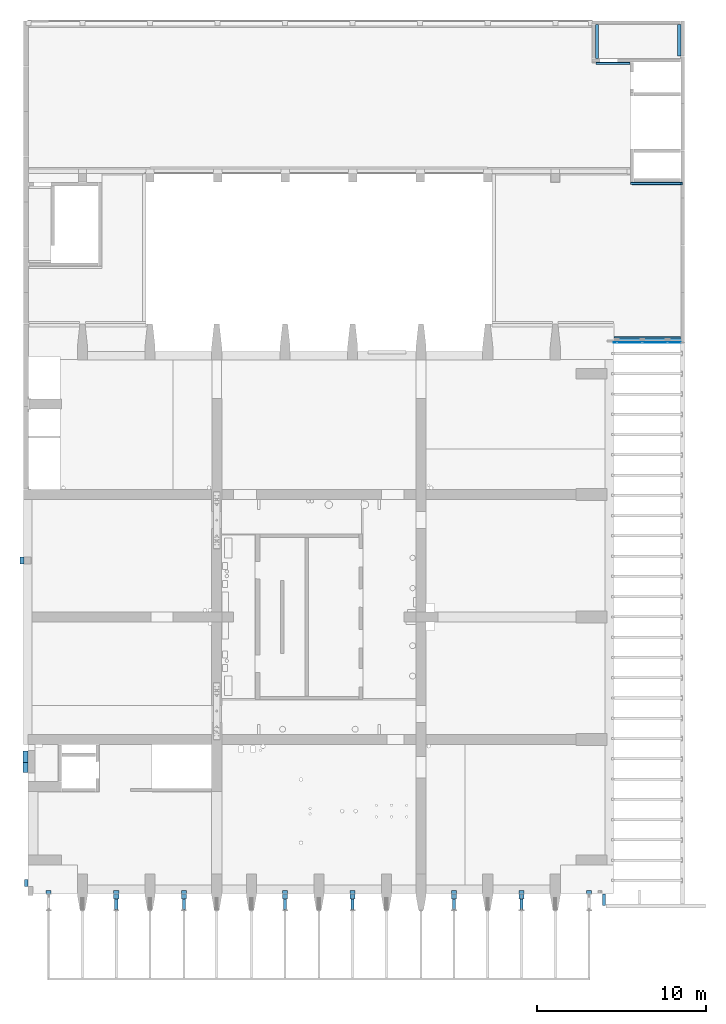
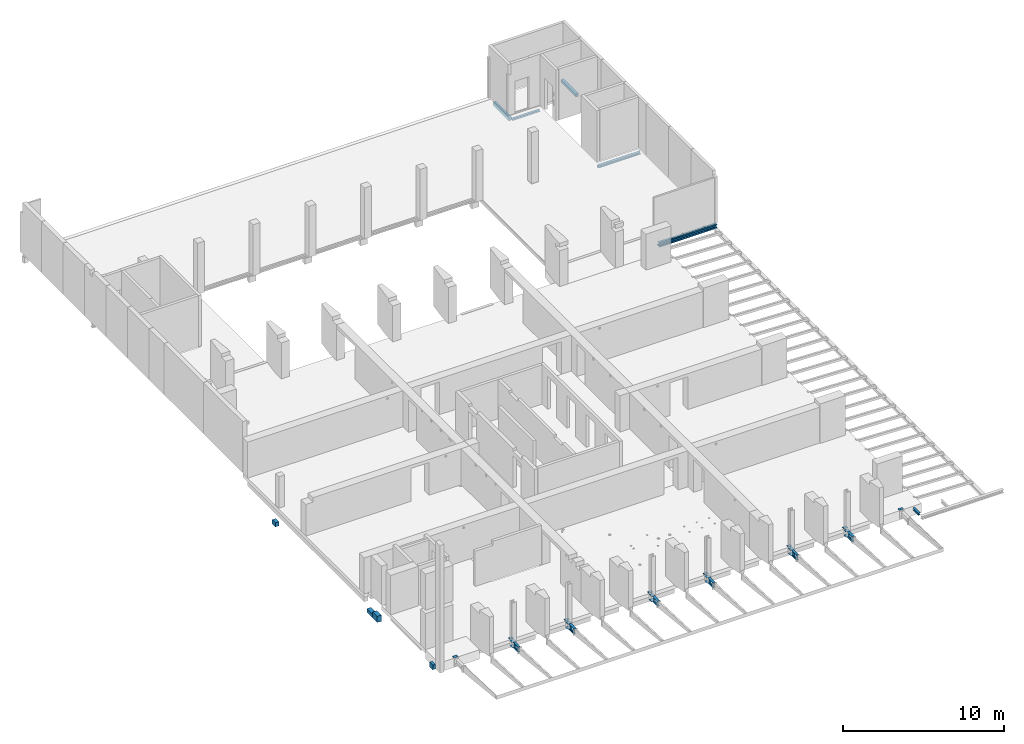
# One storey, part 13 of 27: 38 beams.
"""IFC2X3 building model written with IfcOpenShell, lengths in millimetres."""

from ifc_helpers import new_model, entity, si_unit, converted_unit, derived_unit, direction, frame, frame_2d, origin, origin_2d_with_axis, place, context, subcontext, project, spatial, polyline, circle_curve, parameter, trimmed, segment, composite_curve, rectangle, circle, i_section, outline, extrude, boolean, source, transform, mapped, material, type_object, type_shapes, element, save


model = new_model("IFC2X3")

# Units and contexts
model_context = context("Model", 3, precision=0.01, world=origin(), true_north=direction((6.12303176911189e-17, 1.0)))
body_context = subcontext(model_context, "Body", "Model", "MODEL_VIEW")
ifc_project = project(units=[si_unit("LENGTHUNIT", "METRE", prefix="MILLI"), si_unit("AREAUNIT", "SQUARE_METRE"), si_unit("VOLUMEUNIT", "CUBIC_METRE"), converted_unit("PLANEANGLEUNIT", "DEGREE", entity("IfcRatioMeasure", 0.0174532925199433), si_unit("PLANEANGLEUNIT", "RADIAN"), dimensions=[0, 0, 0, 0, 0, 0, 0]), si_unit("MASSUNIT", "GRAM", prefix="KILO"), derived_unit("MASSDENSITYUNIT", [(si_unit("MASSUNIT", "GRAM", prefix="KILO"), 1), (si_unit("LENGTHUNIT", "METRE"), -3)]), si_unit("TIMEUNIT", "SECOND"), si_unit("FREQUENCYUNIT", "HERTZ"), si_unit("THERMODYNAMICTEMPERATUREUNIT", "DEGREE_CELSIUS"), derived_unit("THERMALTRANSMITTANCEUNIT", [(si_unit("MASSUNIT", "GRAM", prefix="KILO"), 1), (si_unit("THERMODYNAMICTEMPERATUREUNIT", "KELVIN"), -1), (si_unit("TIMEUNIT", "SECOND"), -3)]), derived_unit("VOLUMETRICFLOWRATEUNIT", [(si_unit("LENGTHUNIT", "METRE"), 3), (si_unit("TIMEUNIT", "SECOND"), -1)]), si_unit("ELECTRICCURRENTUNIT", "AMPERE"), si_unit("ELECTRICVOLTAGEUNIT", "VOLT"), si_unit("POWERUNIT", "WATT"), si_unit("FORCEUNIT", "NEWTON", prefix="KILO"), si_unit("ILLUMINANCEUNIT", "LUX"), si_unit("LUMINOUSFLUXUNIT", "LUMEN"), si_unit("LUMINOUSINTENSITYUNIT", "CANDELA"), derived_unit("USERDEFINED", [(si_unit("MASSUNIT", "GRAM", prefix="KILO"), -1), (si_unit("LENGTHUNIT", "METRE"), -2), (si_unit("TIMEUNIT", "SECOND"), 3), (si_unit("LUMINOUSFLUXUNIT", "LUMEN"), 1)]), derived_unit("LINEARVELOCITYUNIT", [(si_unit("LENGTHUNIT", "METRE"), 1), (si_unit("TIMEUNIT", "SECOND"), -1)]), si_unit("PRESSUREUNIT", "PASCAL"), derived_unit("USERDEFINED", [(si_unit("LENGTHUNIT", "METRE"), -2), (si_unit("MASSUNIT", "GRAM", prefix="KILO"), 1), (si_unit("TIMEUNIT", "SECOND"), -2)])], contexts=[model_context])

# Site, building, storey
site_placement = place(None, origin())
site = spatial("IfcSite", under=ifc_project, at=site_placement, Name="Default", CompositionType="ELEMENT")
building_placement = place(site_placement, origin())
building = spatial("IfcBuilding", under=site, at=building_placement, Name="niet gebruiken", CompositionType="ELEMENT")
storey_placement = place(building_placement, frame((0.0, 0.0, 6000.0)))
storey = spatial("IfcBuildingStorey", under=building, at=storey_placement, Name="01 eerste verdieping", CompositionType="ELEMENT", Elevation=6000.0)

# Beams
ifc_material_1 = material(Name="NLRS_h2_staal")
beam_type_1 = type_object("IfcBeamType", Name="NLRS_28.11_SF_WPB_stalen ligger hoekprofiel gelijkzijdig_gen:ligger gelijzijdig hoekprofiel LEQU_150x150x15", PredefinedType="BEAM")
beam_1_placement = place(storey_placement, frame((163179.9, 43207.5, -360.0), z_axis=(0.0, 0.0, 1.0), x_axis=(-1.0, 0.0, 0.0)))
element("IfcBeam", 1, at=beam_1_placement, inside=storey, type_object=beam_type_1, material=ifc_material_1, Name="NLRS_28.11_SF_WPB_stalen ligger hoekprofiel gelijkzijdig_gen:ligger gelijzijdig hoekprofiel LEQU_150x150x15", ObjectType="NLRS_28.11_SF_WPB_stalen ligger hoekprofiel gelijkzijdig_gen:ligger gelijzijdig hoekprofiel LEQU_150x150x15", context=body_context, shape_type="SweptSolid", body=[
    extrude(outline(composite_curve([segment(polyline([(-93.3333333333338, -56.6666666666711), (56.6666666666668, -56.6666666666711)]), True, "CONTINUOUS"), segment(polyline([(56.6666666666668, -56.6666666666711), (56.6666666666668, 93.3333333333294)]), True, "CONTINUOUS"), segment(polyline([(56.6666666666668, 93.3333333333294), (49.6666666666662, 93.3333333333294)]), True, "CONTINUOUS"), segment(trimmed(circle_curve(frame_2d((49.6666666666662, 85.3333333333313), x_axis=(0.0, 1.0)), 7.99999999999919), [parameter(0.0)], [parameter(90.0000000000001)], True, "PARAMETER"), True, "CONTINUOUS"), segment(polyline([(41.6666666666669, 85.3333333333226), (41.6666666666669, -25.6666666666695)]), True, "CONTINUOUS"), segment(trimmed(circle_curve(frame_2d((25.6666666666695, -25.6666666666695), x_axis=(1.0, 0.0)), 15.9999999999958), [parameter(269.999999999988)], [parameter(0.0)], True, "PARAMETER"), False, "CONTINUOUS"), segment(polyline([(25.6666666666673, -41.6666666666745), (-85.3333333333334, -41.6666666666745)]), True, "CONTINUOUS"), segment(trimmed(circle_curve(frame_2d((-85.3333333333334, -49.6666666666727), x_axis=(0.0, 1.0)), 7.99999999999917), [parameter(0.0)], [parameter(90.0000000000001)], True, "PARAMETER"), True, "CONTINUOUS"), segment(polyline([(-93.3333333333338, -49.6666666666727), (-93.3333333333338, -56.6666666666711)]), True, "CONTINUOUS")], self_intersect=False)), frame((0.0, 14.1666666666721, -18.3333333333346), z_axis=(1.0, 0.0, 0.0), x_axis=(0.0, 0.0, -1.0)), (0.0, 0.0, 1.0), 2989.89999999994),
])
beam_2_placement = place(storey_placement, frame((160170.0, 50307.5, -360.0), z_axis=(0.0, 0.0, 1.0), x_axis=(-1.0, 0.0, 0.0)))
element("IfcBeam", 2, at=beam_2_placement, inside=storey, type_object=beam_type_1, material=ifc_material_1, Name="NLRS_28.11_SF_WPB_stalen ligger hoekprofiel gelijkzijdig_gen:ligger gelijzijdig hoekprofiel LEQU_150x150x15", ObjectType="NLRS_28.11_SF_WPB_stalen ligger hoekprofiel gelijkzijdig_gen:ligger gelijzijdig hoekprofiel LEQU_150x150x15", context=body_context, shape_type="SweptSolid", body=[
    extrude(outline(composite_curve([segment(polyline([(-93.3333333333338, -56.6666666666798), (56.6666666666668, -56.6666666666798)]), True, "CONTINUOUS"), segment(polyline([(56.6666666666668, -56.6666666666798), (56.6666666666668, 93.3333333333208)]), True, "CONTINUOUS"), segment(polyline([(56.6666666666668, 93.3333333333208), (49.6666666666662, 93.3333333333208)]), True, "CONTINUOUS"), segment(trimmed(circle_curve(frame_2d((49.6666666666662, 85.3333333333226), x_axis=(0.0, 1.0)), 7.99999999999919), [parameter(0.0)], [parameter(90.0000000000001)], True, "PARAMETER"), True, "CONTINUOUS"), segment(polyline([(41.6666666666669, 85.3333333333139), (41.6666666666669, -25.6666666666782)]), True, "CONTINUOUS"), segment(trimmed(circle_curve(frame_2d((25.6666666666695, -25.6666666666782), x_axis=(1.0, 0.0)), 15.9999999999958), [parameter(269.999999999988)], [parameter(0.0)], True, "PARAMETER"), False, "CONTINUOUS"), segment(polyline([(25.6666666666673, -41.6666666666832), (-85.3333333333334, -41.6666666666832)]), True, "CONTINUOUS"), segment(trimmed(circle_curve(frame_2d((-85.3333333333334, -49.6666666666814), x_axis=(0.0, 1.0)), 7.99999999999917), [parameter(0.0)], [parameter(90.0000000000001)], True, "PARAMETER"), True, "CONTINUOUS"), segment(polyline([(-93.3333333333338, -49.6666666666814), (-93.3333333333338, -56.6666666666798)]), True, "CONTINUOUS")], self_intersect=False)), frame((0.0, 14.1666666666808, -18.3333333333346), z_axis=(1.0, 0.0, 0.0), x_axis=(0.0, 0.0, -1.0)), (0.0, 0.0, 1.0), 2010.00000000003),
])
ifc_material_2 = material(Name="NLRS_f2_beton ihwg")
beam_type_2 = type_object("IfcBeamType", Name="NLRS_28.11_SF_WPB_oplegnok ihwg beton_gen:250x310", PredefinedType="BEAM")
beam_3_placement = place(storey_placement, frame((124175.0, 21046.0, -1110.0), z_axis=(0.0, 0.0, 1.0), x_axis=(0.0, -1.0, 0.0)))
element("IfcBeam", 3, at=beam_3_placement, inside=storey, type_object=beam_type_2, material=ifc_material_2, Name="NLRS_28.11_SF_WPB_oplegnok ihwg beton_gen:250x310", ObjectType="NLRS_28.11_SF_WPB_oplegnok ihwg beton_gen:250x310", context=body_context, shape_type="SweptSolid", body=[
    extrude(rectangle(XDim=310.000000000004, YDim=250.000000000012, at=frame_2d((0.0, 1.73230318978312e-11), x_axis=(1.0, 0.0))), frame((0.0, 0.0, -155.0), z_axis=(1.0, 0.0, 0.0), x_axis=(0.0, 0.0, -1.0)), (0.0, 0.0, 1.0), 400.000000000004),
])
ifc_material_3 = material(Name="NLRS_f2_beton prefab")
beam_type_3 = type_object("IfcBeamType", Name="NLRS_28.11_SF_WPB_oplegnok prefabbeton_gen:200x250 slope", PredefinedType="BEAM")
beam_4_placement = place(storey_placement, frame((163090.0, 52580.0, -425.0), z_axis=(0.0, 0.0, 1.0), x_axis=(0.0, -1.0, 0.0)))
element("IfcBeam", 4, at=beam_4_placement, inside=storey, type_object=beam_type_3, material=ifc_material_3, Name="NLRS_28.11_SF_WPB_oplegnok prefabbeton_gen:200x250 slope", ObjectType="NLRS_28.11_SF_WPB_oplegnok prefabbeton_gen:200x250 slope", context=body_context, shape_type="SweptSolid", body=[
    extrude(outline(polyline([(-111.602540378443, -100.0), (84.8076211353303, -100.0), (138.397459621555, 100.0), (-111.602540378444, 100.0), (-111.602540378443, -100.0)])), frame((0.0, 0.0, -111.602540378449), z_axis=(1.0, 0.0, 0.0), x_axis=(0.0, 0.0, -1.0)), (0.0, 0.0, 1.0), 1860.00000000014),
])
beam_5_placement = place(storey_placement, frame((158220.0, 50570.0, -425.0), z_axis=(0.0, 0.0, 1.0), x_axis=(0.0, 1.0, 0.0)))
element("IfcBeam", 5, at=beam_5_placement, inside=storey, type_object=beam_type_3, material=ifc_material_3, Name="NLRS_28.11_SF_WPB_oplegnok prefabbeton_gen:200x250 slope", ObjectType="NLRS_28.11_SF_WPB_oplegnok prefabbeton_gen:200x250 slope", context=body_context, shape_type="SweptSolid", body=[
    extrude(outline(polyline([(-111.602540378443, -100.0), (84.8076211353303, -100.0), (138.397459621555, 100.0), (-111.602540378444, 100.0), (-111.602540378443, -100.0)])), frame((0.0, 0.0, -111.602540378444), z_axis=(1.0, 0.0, 0.0), x_axis=(0.0, 0.0, -1.0)), (0.0, 0.0, 1.0), 2010.00000000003),
])
beam_type_4 = type_object("IfcBeamType", Name="NLRS_28.11_SF_WPB_oplegnok ihwg beton_gen:200x347.5", PredefinedType="BEAM")
beam_6_placement = place(storey_placement, frame((124430.0, 1950.0, -442.499999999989), z_axis=(0.0, 0.0, 1.0), x_axis=(0.0, -1.0, 0.0)))
element("IfcBeam", 6, at=beam_6_placement, inside=storey, type_object=beam_type_4, material=ifc_material_2, Name="NLRS_28.11_SF_WPB_oplegnok ihwg beton_gen:200x347.5", ObjectType="NLRS_28.11_SF_WPB_oplegnok ihwg beton_gen:200x347.5", context=body_context, shape_type="SweptSolid", body=[
    extrude(rectangle(XDim=347.500000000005, YDim=199.999999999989, at=origin_2d_with_axis()), frame((0.0, 0.0, -173.750000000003), z_axis=(1.0, 0.0, 0.0), x_axis=(0.0, 0.0, -1.0)), (0.0, 0.0, 1.0), 400.000000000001),
])
beam_type_5 = type_object("IfcBeamType", Name="NLRS_28.11_SF_WPB_oplegnok prefabbeton_gen:300x310 met afschuining 7,6gr", PredefinedType="BEAM")
beam_7_placement = place(storey_placement, frame((124380.0, 9571.0, -970.0), z_axis=(0.0, 0.0, 1.0), x_axis=(0.0, -1.0, 0.0)))
element("IfcBeam", 7, at=beam_7_placement, inside=storey, type_object=beam_type_5, material=ifc_material_3, Name="NLRS_28.11_SF_WPB_oplegnok prefabbeton_gen:300x310 met afschuining 7,6gr", ObjectType="NLRS_28.11_SF_WPB_oplegnok prefabbeton_gen:300x310 met afschuining 7,6gr", context=body_context, shape_type="SweptSolid", body=[
    extrude(outline(polyline([(-144.992863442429, -150.0), (124.978590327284, -150.0), (165.007136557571, 150.0), (-144.992863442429, 150.0), (-144.992863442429, -150.0)])), frame((0.0, 0.0, -144.992863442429), z_axis=(1.0, 0.0, 0.0), x_axis=(0.0, 0.0, -1.0)), (0.0, 0.0, 1.0), 700.000000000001),
])
beam_type_6 = type_object("IfcBeamType", Name="NLRS_28.11_SF_WPB_oplegnok prefabbeton_gen:300x480 met afschuining 9gr", PredefinedType="BEAM")
beam_8_placement = place(storey_placement, frame((124380.0, 8871.0, -800.0), z_axis=(0.0, 0.0, 1.0), x_axis=(0.0, -1.0, 0.0)))
element("IfcBeam", 8, at=beam_8_placement, inside=storey, type_object=beam_type_6, material=ifc_material_3, Name="NLRS_28.11_SF_WPB_oplegnok prefabbeton_gen:300x480 met afschuining 9gr", ObjectType="NLRS_28.11_SF_WPB_oplegnok prefabbeton_gen:300x480 met afschuining 9gr", context=body_context, shape_type="SweptSolid", body=[
    extrude(outline(polyline([(-229.992863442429, -150.0), (209.978590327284, -150.0), (250.007136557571, 150.0), (-229.992863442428, 150.0), (-229.992863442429, -150.0)])), frame((0.0, 0.0, -229.992863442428), z_axis=(1.0, 0.0, 0.0), x_axis=(0.0, 0.0, -1.0)), (0.0, 0.0, 1.0), 575.0),
])
beam_type_7 = type_object("IfcBeamType", Name="ligger SFB260 HE260B+355x12", PredefinedType="BEAM", material=ifc_material_1)
shared_shape_1 = source(origin(), body_context, "Body", "SweptSolid", [
    extrude(rectangle(XDim=3954.99999999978, YDim=355.000000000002, at=frame_2d((0.0, 2.1600499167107e-12), x_axis=(1.0, 0.0))), frame((161192.5, 33924.5, 5568.0)), (0.0, 0.0, 1.0), 11.9999999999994),
    extrude(outline(composite_curve([segment(polyline([(-130.0, -112.499999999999), (-130.0, -130.0)]), True, "CONTINUOUS"), segment(polyline([(-130.0, -130.0), (130.0, -130.0)]), True, "CONTINUOUS"), segment(polyline([(130.0, -130.0), (130.0, -112.499999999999)]), True, "CONTINUOUS"), segment(polyline([(130.0, -112.499999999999), (29.0, -112.499999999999)]), True, "CONTINUOUS"), segment(trimmed(circle_curve(frame_2d((29.0, -88.4999999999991), x_axis=(-1.0, 0.0)), 24.0), [parameter(3.56222124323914e-13)], [parameter(90.0000000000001)], True, "PARAMETER"), False, "CONTINUOUS"), segment(polyline([(5.0, -88.4999999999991), (5.0, 88.5000000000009)]), True, "CONTINUOUS"), segment(trimmed(circle_curve(frame_2d((29.0, 88.5000000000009), x_axis=(0.0, 1.0)), 24.0), [parameter(3.56222124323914e-13)], [parameter(90.0000000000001)], True, "PARAMETER"), False, "CONTINUOUS"), segment(polyline([(29.0, 112.500000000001), (130.0, 112.500000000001)]), True, "CONTINUOUS"), segment(polyline([(130.0, 112.500000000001), (130.0, 130.0)]), True, "CONTINUOUS"), segment(polyline([(130.0, 130.0), (-130.0, 130.0)]), True, "CONTINUOUS"), segment(polyline([(-130.0, 130.0), (-130.0, 112.500000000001)]), True, "CONTINUOUS"), segment(polyline([(-130.0, 112.500000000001), (-29.0, 112.500000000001)]), True, "CONTINUOUS"), segment(trimmed(circle_curve(frame_2d((-29.0, 88.5000000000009), x_axis=(1.0, 0.0)), 24.0), [parameter(0.0)], [parameter(90.0000000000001)], True, "PARAMETER"), False, "CONTINUOUS"), segment(polyline([(-5.0, 88.5000000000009), (-5.0, -88.4999999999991)]), True, "CONTINUOUS"), segment(trimmed(circle_curve(frame_2d((-29.0, -88.4999999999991), x_axis=(0.0, -1.0)), 24.0), [parameter(0.0)], [parameter(90.0000000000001)], True, "PARAMETER"), False, "CONTINUOUS"), segment(polyline([(-29.0, -112.499999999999), (-130.0, -112.499999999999)]), True, "CONTINUOUS")], self_intersect=False)), frame((159215.0, 33877.0, 5710.0), z_axis=(-1.0, 0.0, 0.0), x_axis=(0.0, 1.0, 0.0)), (0.0, 0.0, -1.0), 4154.99999999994),
])
type_shapes(beam_type_7, [shared_shape_1])
beam_9_placement = place(storey_placement, frame((0.0, 0.0, -6000.0)))
element("IfcBeam", 9, at=beam_9_placement, inside=storey, type_object=beam_type_7, material=ifc_material_1, Name="NLRS_28.11_SF_WPB_stalen ligger SFB_gen_BSc:ligger SFB260 HE260B+355x12", ObjectType="ligger SFB260 HE260B+355x12", context=body_context, shape_type="MappedRepresentation", body=[
    mapped(shared_shape_1, transform((0.0, 0.0, 0.0), scale=1.0)),
])
beam_type_8 = type_object("IfcBeamType", Name="NLRS_28.11_SF_WPB_stalen ligger HEA_gen:ligger HEA 160", PredefinedType="BEAM")
beam_10_placement = place(storey_placement, frame((158635.0, 403.725000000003, -200.0), z_axis=(0.0, 0.0, 1.0), x_axis=(0.0, 1.0, 0.0)))
element("IfcBeam", 10, at=beam_10_placement, inside=storey, type_object=beam_type_8, material=ifc_material_1, Name="NLRS_28.11_SF_WPB_stalen ligger HEA_gen:ligger HEA 160", ObjectType="NLRS_28.11_SF_WPB_stalen ligger HEA_gen:ligger HEA 160", context=body_context, shape_type="SweptSolid", body=[
    extrude(i_section(OverallWidth=159.999999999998, OverallDepth=152.0, WebThickness=6.00000000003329, FlangeThickness=8.99999999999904, FilletRadius=15.0000000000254, at=frame_2d((-1.08713038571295e-12, 0.0), x_axis=(0.0, 1.0))), frame((0.0, 0.0, -76.0), z_axis=(1.0, 0.0, 0.0), x_axis=(0.0, 0.0, -1.0)), (0.0, 0.0, 1.0), 700.3),
])
beam_type_9 = type_object("IfcBeamType", Name="NLRS_28.11_SF_WPB_stalen ligger hoekprofiel gelijkzijdig_gen:ligger gelijzijdig hoekprofiel LEQU_180x180x18", PredefinedType="BEAM")
beam_11_placement = place(storey_placement, frame((163270.0, 43199.0, -348.0), z_axis=(0.0, 0.0, 1.0), x_axis=(-1.0, 0.0, 0.0)))
element("IfcBeam", 11, at=beam_11_placement, inside=storey, type_object=beam_type_9, material=ifc_material_1, Name="NLRS_28.11_SF_WPB_stalen ligger hoekprofiel gelijkzijdig_gen:ligger gelijzijdig hoekprofiel LEQU_180x180x18", ObjectType="NLRS_28.11_SF_WPB_stalen ligger hoekprofiel gelijkzijdig_gen:ligger gelijzijdig hoekprofiel LEQU_180x180x18", context=body_context, shape_type="SweptSolid", body=[
    extrude(outline(composite_curve([segment(polyline([(-112.0, -68.0), (68.0, -68.0)]), True, "CONTINUOUS"), segment(polyline([(68.0, -68.0), (68.0, 112.0)]), True, "CONTINUOUS"), segment(polyline([(68.0, 112.0), (59.0, 112.0)]), True, "CONTINUOUS"), segment(trimmed(circle_curve(frame_2d((59.0, 103.0), x_axis=(0.0, 1.0)), 8.99999999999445), [parameter(0.0)], [parameter(90.0000000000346)], True, "PARAMETER"), True, "CONTINUOUS"), segment(polyline([(50.0, 103.0), (50.0, -32.0)]), True, "CONTINUOUS"), segment(trimmed(circle_curve(frame_2d((32.0, -32.0), x_axis=(1.0, 0.0)), 17.9999999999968), [parameter(269.99999999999)], [parameter(0.0)], True, "PARAMETER"), False, "CONTINUOUS"), segment(polyline([(32.0, -50.0), (-103.0, -50.0)]), True, "CONTINUOUS"), segment(trimmed(circle_curve(frame_2d((-103.0, -59.0), x_axis=(0.0, 1.0)), 8.99999999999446), [parameter(0.0)], [parameter(90.0000000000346)], True, "PARAMETER"), True, "CONTINUOUS"), segment(polyline([(-112.0, -59.0), (-112.0, -68.0)]), True, "CONTINUOUS")], self_intersect=False)), frame((0.0, 17.0, -22.0), z_axis=(1.0, 0.0, 0.0), x_axis=(0.0, 0.0, -1.0)), (0.0, 0.0, 1.0), 2980.00000000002),
])
beam_type_10 = type_object("IfcBeamType", Name="ligger stripstaal RECT_70x5", PredefinedType="BEAM", material=ifc_material_1)
shared_shape_2 = source(origin(), body_context, "Body", "SweptSolid", [
    extrude(rectangle(XDim=3954.99999999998, YDim=4.99999999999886, at=origin_2d_with_axis()), frame((161192.5, 33749.5, 5840.0)), (0.0, 0.0, 1.0), 70.0000000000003),
    extrude(rectangle(XDim=3954.99999999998, YDim=4.99999999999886, at=origin_2d_with_axis()), frame((161192.5, 33749.5, 5840.0)), (0.0, 0.0, 1.0), 70.0000000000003),
])
type_shapes(beam_type_10, [shared_shape_2])
beam_12_placement = place(storey_placement, frame((0.0, 0.0, -6000.0)))
element("IfcBeam", 12, at=beam_12_placement, inside=storey, type_object=beam_type_10, material=ifc_material_1, Name="NLRS_28.11_SF_WPB_stalen ligger stripstaal_gen:ligger stripstaal RECT_70x5", ObjectType="ligger stripstaal RECT_70x5", context=body_context, shape_type="MappedRepresentation", body=[
    mapped(shared_shape_2, transform((0.0, 0.0, 0.0), scale=1.0)),
])
beam_type_11 = type_object("IfcBeamType", Name="ligger stripstaal RECT_200x25", PredefinedType="BEAM", material=ifc_material_1)
shared_shape_3 = source(origin(), body_context, "Body", "SweptSolid", [
    extrude(rectangle(XDim=300.0, YDim=200.0, at=origin_2d_with_axis()), frame((0.0, 0.0, -12.4999999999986), z_axis=(0.0, 0.0, 1.0), x_axis=(-1.0, 0.0, 0.0)), (0.0, 0.0, 1.0), 25.0),
    extrude(rectangle(XDim=300.0, YDim=200.0, at=origin_2d_with_axis()), frame((0.0, 0.0, -12.4999999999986), z_axis=(0.0, 0.0, 1.0), x_axis=(-1.0, 0.0, 0.0)), (0.0, 0.0, 1.0), 25.0),
])
type_shapes(beam_type_11, [shared_shape_3])
for number, where, name in (
    (13, (153750.0, 1199.0, -62.500000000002), "NLRS_28.11_SF_WPB_stalen ligger stripstaal_gen:ligger stripstaal RECT_200x25"),
    (14, (149750.0, 1199.0, -62.500000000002), "NLRS_28.11_SF_WPB_stalen ligger stripstaal_gen:ligger stripstaal RECT_200x25"),
    (15, (143750.0, 1199.0, -62.500000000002), "NLRS_28.11_SF_WPB_stalen ligger stripstaal_gen:ligger stripstaal RECT_200x25"),
    (16, (139750.0, 1199.0, -62.500000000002), "NLRS_28.11_SF_WPB_stalen ligger stripstaal_gen:ligger stripstaal RECT_200x25"),
    (17, (133750.0, 1199.0, -62.500000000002), "NLRS_28.11_SF_WPB_stalen ligger stripstaal_gen:ligger stripstaal RECT_200x25"),
    (18, (129750.0, 1199.0, -62.500000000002), "NLRS_28.11_SF_WPB_stalen ligger stripstaal_gen:ligger stripstaal RECT_200x25"),
    (19, (157750.0, 1199.0, -62.500000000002), "NLRS_28.11_SF_WPB_stalen ligger stripstaal_gen:ligger stripstaal RECT_200x25"),
    (20, (125750.0, 1199.0, -62.500000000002), "NLRS_28.11_SF_WPB_stalen ligger stripstaal_gen:ligger stripstaal RECT_200x25"),
):
    element("IfcBeam", number, at=place(storey_placement, frame(where)), inside=storey, type_object=beam_type_11, material=ifc_material_1, Name=name, ObjectType="ligger stripstaal RECT_200x25", context=body_context, shape_type="MappedRepresentation", body=[
        mapped(shared_shape_3, transform((0.0, 0.0, 0.0), scale=1.0)),
    ])
beam_type_12 = type_object("IfcBeamType", Name="NLRS_28.11_SF_WPB_stalen ligger IPE_gen:ligger IPE 400", PredefinedType="BEAM")
beam_13_placement = place(storey_placement, frame((129750.0, 799.0, -120.0), z_axis=(0.0, 0.0, 1.0), x_axis=(0.0, -1.0, 0.0)))
element("IfcBeam", 21, at=beam_13_placement, inside=storey, type_object=beam_type_12, material=ifc_material_1, Name="NLRS_28.11_SF_WPB_stalen ligger IPE_gen:ligger IPE 400", ObjectType="NLRS_28.11_SF_WPB_stalen ligger IPE_gen:ligger IPE 400", context=body_context, shape_type="CSG", body=[
    boolean("DIFFERENCE", extrude(i_section(OverallWidth=179.999999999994, OverallDepth=400.0, WebThickness=8.60000000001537, FlangeThickness=13.4999999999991, FilletRadius=20.9999999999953, at=frame_2d((-1.09423581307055e-12, 1.73301373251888e-11), x_axis=(0.0, 1.0))), frame((0.0, 0.0, -200.0), z_axis=(1.0, 0.0, 0.0), x_axis=(0.0, 0.0, -1.0)), (0.0, 0.0, 1.0), 634.0), extrude(circle(Radius=65.0, at=origin_2d_with_axis()), frame((320.0, 4.30000000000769, -200.0), z_axis=(0.0, -1.0, 0.0), x_axis=(1.0, 0.0, 0.0)), (0.0, 0.0, 1.0), 8.60000000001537)),
])
beam_14_placement = place(storey_placement, frame((153750.0, 799.0, -120.0), z_axis=(0.0, 0.0, 1.0), x_axis=(0.0, -1.0, 0.0)))
element("IfcBeam", 22, at=beam_14_placement, inside=storey, type_object=beam_type_12, material=ifc_material_1, Name="NLRS_28.11_SF_WPB_stalen ligger IPE_gen:ligger IPE 400", ObjectType="NLRS_28.11_SF_WPB_stalen ligger IPE_gen:ligger IPE 400", context=body_context, shape_type="CSG", body=[
    boolean("DIFFERENCE", extrude(i_section(OverallWidth=179.999999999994, OverallDepth=400.0, WebThickness=8.60000000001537, FlangeThickness=13.4999999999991, FilletRadius=20.9999999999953, at=frame_2d((-1.09423581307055e-12, -1.73301373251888e-11), x_axis=(0.0, 1.0))), frame((0.0, 0.0, -200.0), z_axis=(1.0, 0.0, 0.0), x_axis=(0.0, 0.0, -1.0)), (0.0, 0.0, 1.0), 634.0), extrude(circle(Radius=65.0, at=origin_2d_with_axis()), frame((320.0, 4.30000000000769, -200.0), z_axis=(0.0, -1.0, 0.0), x_axis=(1.0, 0.0, 0.0)), (0.0, 0.0, 1.0), 8.60000000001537)),
])
beam_15_placement = place(storey_placement, frame((149750.0, 799.0, -120.0), z_axis=(0.0, 0.0, 1.0), x_axis=(0.0, -1.0, 0.0)))
element("IfcBeam", 23, at=beam_15_placement, inside=storey, type_object=beam_type_12, material=ifc_material_1, Name="NLRS_28.11_SF_WPB_stalen ligger IPE_gen:ligger IPE 400", ObjectType="NLRS_28.11_SF_WPB_stalen ligger IPE_gen:ligger IPE 400", context=body_context, shape_type="CSG", body=[
    boolean("DIFFERENCE", extrude(i_section(OverallWidth=179.999999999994, OverallDepth=400.0, WebThickness=8.60000000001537, FlangeThickness=13.4999999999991, FilletRadius=20.9999999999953, at=frame_2d((-1.09423581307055e-12, 3.46531692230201e-11), x_axis=(0.0, 1.0))), frame((0.0, 0.0, -200.0), z_axis=(1.0, 0.0, 0.0), x_axis=(0.0, 0.0, -1.0)), (0.0, 0.0, 1.0), 634.0), extrude(circle(Radius=65.0, at=origin_2d_with_axis()), frame((320.0, 4.30000000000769, -200.0), z_axis=(0.0, -1.0, 0.0), x_axis=(1.0, 0.0, 0.0)), (0.0, 0.0, 1.0), 8.60000000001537)),
])
beam_16_placement = place(storey_placement, frame((143750.0, 799.0, -120.0), z_axis=(0.0, 0.0, 1.0), x_axis=(0.0, -1.0, 0.0)))
element("IfcBeam", 24, at=beam_16_placement, inside=storey, type_object=beam_type_12, material=ifc_material_1, Name="NLRS_28.11_SF_WPB_stalen ligger IPE_gen:ligger IPE 400", ObjectType="NLRS_28.11_SF_WPB_stalen ligger IPE_gen:ligger IPE 400", context=body_context, shape_type="CSG", body=[
    boolean("DIFFERENCE", extrude(i_section(OverallWidth=179.999999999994, OverallDepth=400.0, WebThickness=8.60000000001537, FlangeThickness=13.4999999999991, FilletRadius=20.9999999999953, at=frame_2d((-1.09423581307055e-12, 1.73301373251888e-11), x_axis=(0.0, 1.0))), frame((0.0, 0.0, -200.0), z_axis=(1.0, 0.0, 0.0), x_axis=(0.0, 0.0, -1.0)), (0.0, 0.0, 1.0), 634.0), extrude(circle(Radius=65.0, at=origin_2d_with_axis()), frame((320.0, 4.30000000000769, -200.0), z_axis=(0.0, -1.0, 0.0), x_axis=(1.0, 0.0, 0.0)), (0.0, 0.0, 1.0), 8.60000000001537)),
])
beam_17_placement = place(storey_placement, frame((139750.0, 799.0, -120.0), z_axis=(0.0, 0.0, 1.0), x_axis=(0.0, -1.0, 0.0)))
element("IfcBeam", 25, at=beam_17_placement, inside=storey, type_object=beam_type_12, material=ifc_material_1, Name="NLRS_28.11_SF_WPB_stalen ligger IPE_gen:ligger IPE 400", ObjectType="NLRS_28.11_SF_WPB_stalen ligger IPE_gen:ligger IPE 400", context=body_context, shape_type="CSG", body=[
    boolean("DIFFERENCE", extrude(i_section(OverallWidth=179.999999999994, OverallDepth=400.0, WebThickness=8.60000000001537, FlangeThickness=13.4999999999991, FilletRadius=20.9999999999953, at=frame_2d((-1.09423581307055e-12, -1.73301373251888e-11), x_axis=(0.0, 1.0))), frame((0.0, 0.0, -200.0), z_axis=(1.0, 0.0, 0.0), x_axis=(0.0, 0.0, -1.0)), (0.0, 0.0, 1.0), 634.0), extrude(circle(Radius=65.0, at=origin_2d_with_axis()), frame((320.0, 4.30000000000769, -200.0), z_axis=(0.0, -1.0, 0.0), x_axis=(1.0, 0.0, 0.0)), (0.0, 0.0, 1.0), 8.60000000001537)),
])
beam_18_placement = place(storey_placement, frame((133750.0, 799.0, -120.0), z_axis=(0.0, 0.0, 1.0), x_axis=(0.0, -1.0, 0.0)))
element("IfcBeam", 26, at=beam_18_placement, inside=storey, type_object=beam_type_12, material=ifc_material_1, Name="NLRS_28.11_SF_WPB_stalen ligger IPE_gen:ligger IPE 400", ObjectType="NLRS_28.11_SF_WPB_stalen ligger IPE_gen:ligger IPE 400", context=body_context, shape_type="CSG", body=[
    boolean("DIFFERENCE", extrude(i_section(OverallWidth=179.999999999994, OverallDepth=400.0, WebThickness=8.60000000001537, FlangeThickness=13.4999999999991, FilletRadius=20.9999999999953, at=frame_2d((-1.09423581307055e-12, 0.0), x_axis=(0.0, 1.0))), frame((0.0, 0.0, -200.0), z_axis=(1.0, 0.0, 0.0), x_axis=(0.0, 0.0, -1.0)), (0.0, 0.0, 1.0), 634.0), extrude(circle(Radius=65.0, at=origin_2d_with_axis()), frame((320.0, 4.30000000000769, -200.0), z_axis=(0.0, -1.0, 0.0), x_axis=(1.0, 0.0, 0.0)), (0.0, 0.0, 1.0), 8.60000000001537)),
])
beam_type_13 = type_object("IfcBeamType", Name="ligger stripstaal RECT_300x15", PredefinedType="BEAM", material=ifc_material_1)
shared_shape_4 = source(origin(), body_context, "Body", "SweptSolid", [
    extrude(rectangle(XDim=300.000000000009, YDim=300.0, at=origin_2d_with_axis()), frame((0.0, 0.0, -7.49999999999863), z_axis=(0.0, 0.0, 1.0), x_axis=(-1.0, 0.0, 0.0)), (0.0, 0.0, 1.0), 15.0),
    extrude(rectangle(XDim=300.000000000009, YDim=300.0, at=origin_2d_with_axis()), frame((0.0, 0.0, -7.49999999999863), z_axis=(0.0, 0.0, 1.0), x_axis=(-1.0, 0.0, 0.0)), (0.0, 0.0, 1.0), 15.0),
])
type_shapes(beam_type_13, [shared_shape_4])
for number, where, name in (
    (27, (129750.0, 949.0, -512.500000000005), "NLRS_28.11_SF_WPB_stalen ligger stripstaal_gen:ligger stripstaal RECT_300x15"),
    (28, (153750.0, 949.0, -512.500000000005), "NLRS_28.11_SF_WPB_stalen ligger stripstaal_gen:ligger stripstaal RECT_300x15"),
    (29, (149750.0, 949.0, -512.500000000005), "NLRS_28.11_SF_WPB_stalen ligger stripstaal_gen:ligger stripstaal RECT_300x15"),
    (30, (143750.0, 949.0, -512.500000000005), "NLRS_28.11_SF_WPB_stalen ligger stripstaal_gen:ligger stripstaal RECT_300x15"),
    (31, (139750.0, 949.0, -512.500000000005), "NLRS_28.11_SF_WPB_stalen ligger stripstaal_gen:ligger stripstaal RECT_300x15"),
    (32, (133750.0, 949.0, -512.500000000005), "NLRS_28.11_SF_WPB_stalen ligger stripstaal_gen:ligger stripstaal RECT_300x15"),
):
    element("IfcBeam", number, at=place(storey_placement, frame(where)), inside=storey, type_object=beam_type_13, material=ifc_material_1, Name=name, ObjectType="ligger stripstaal RECT_300x15", context=body_context, shape_type="MappedRepresentation", body=[
        mapped(shared_shape_4, transform((0.0, 0.0, 0.0), scale=1.0)),
    ])
beam_type_14 = type_object("IfcBeamType", Name="ligger stripstaal RECT_262x15", PredefinedType="BEAM", material=ifc_material_1)
shared_shape_5 = source(origin(), body_context, "Body", "SweptSolid", [
    extrude(rectangle(XDim=300.000000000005, YDim=262.0, at=origin_2d_with_axis()), frame((0.0, 0.0, -7.49999999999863), z_axis=(0.0, 0.0, 1.0), x_axis=(-1.0, 0.0, 0.0)), (0.0, 0.0, 1.0), 15.0),
    extrude(rectangle(XDim=300.000000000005, YDim=262.0, at=origin_2d_with_axis()), frame((0.0, 0.0, -7.49999999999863), z_axis=(0.0, 0.0, 1.0), x_axis=(-1.0, 0.0, 0.0)), (0.0, 0.0, 1.0), 15.0),
])
type_shapes(beam_type_14, [shared_shape_5])
for number, where, name in (
    (33, (129750.0, 949.0, -127.500000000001), "NLRS_28.11_SF_WPB_stalen ligger stripstaal_gen:ligger stripstaal RECT_262x15"),
    (34, (153750.0, 949.0, -127.500000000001), "NLRS_28.11_SF_WPB_stalen ligger stripstaal_gen:ligger stripstaal RECT_262x15"),
    (35, (149750.0, 949.0, -127.500000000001), "NLRS_28.11_SF_WPB_stalen ligger stripstaal_gen:ligger stripstaal RECT_262x15"),
    (36, (143750.0, 949.0, -127.500000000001), "NLRS_28.11_SF_WPB_stalen ligger stripstaal_gen:ligger stripstaal RECT_262x15"),
    (37, (139750.0, 949.0, -127.500000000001), "NLRS_28.11_SF_WPB_stalen ligger stripstaal_gen:ligger stripstaal RECT_262x15"),
    (38, (133750.0, 949.0, -127.500000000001), "NLRS_28.11_SF_WPB_stalen ligger stripstaal_gen:ligger stripstaal RECT_262x15"),
):
    element("IfcBeam", number, at=place(storey_placement, frame(where)), inside=storey, type_object=beam_type_14, material=ifc_material_1, Name=name, ObjectType="ligger stripstaal RECT_262x15", context=body_context, shape_type="MappedRepresentation", body=[
        mapped(shared_shape_5, transform((0.0, 0.0, 0.0), scale=1.0)),
    ])

save(model, "model.ifc")
